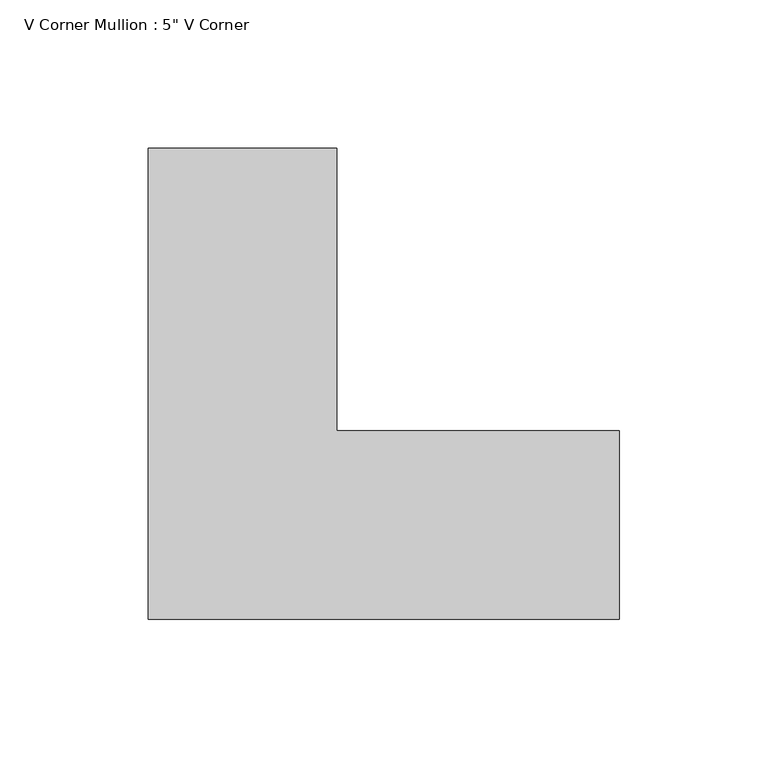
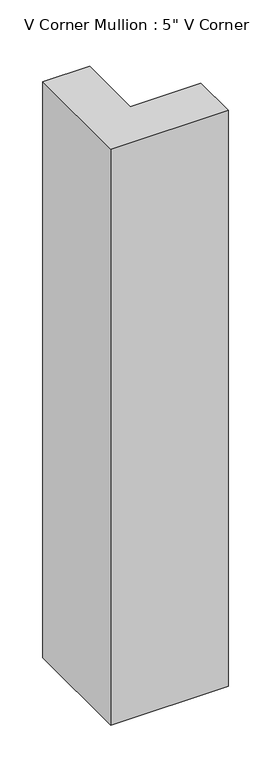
"""IFC4 building model written with IfcOpenShell, lengths in millimetres: member geometry."""

from ifc_helpers import new_model, si_unit, frame, origin, place, context, project, spatial, polyline, outline, extrude, source, transform, mapped, element, save


def member_76928700(model_context):
    return source(origin(), model_context, "Body", "SweptSolid", [
        extrude(outline(polyline([(63.5, -95.25), (-95.25, -95.25), (-95.25, 63.5), (-31.75, 63.5), (-31.75, -31.75), (63.5, -31.75), (63.5, -95.25)])), frame((0.0, 0.0, -823.1298783), z_axis=(0.0, 0.0, 1.0), x_axis=(1.0, 0.0, 0.0)), (0.0, 0.0, 1.0), 823.1298783),
    ])


if __name__ == "__main__":
    model = new_model("IFC4")
    model_context = context("Model", 3, world=origin())
    ifc_project = project(units=[si_unit("LENGTHUNIT", "METRE", prefix="MILLI")], contexts=[model_context])
    site = spatial("IfcSite", under=ifc_project)
    building = spatial("IfcBuilding", under=site)
    placement = place(None, origin())
    member_shape = member_76928700(model_context)
    element("IfcMember", 1, ObjectType="V Corner Mullion : 5\" V Corner", at=placement, inside=building, context=model_context, shape_type="MappedRepresentation", body=[
        mapped(member_shape, transform((0.0, 0.0, 0.0), x_axis=(1.0, 0.0, 0.0), y_axis=(0.0, 1.0, 0.0), z_axis=(0.0, 0.0, 1.0))),
    ])
    save(model, "model.ifc")
